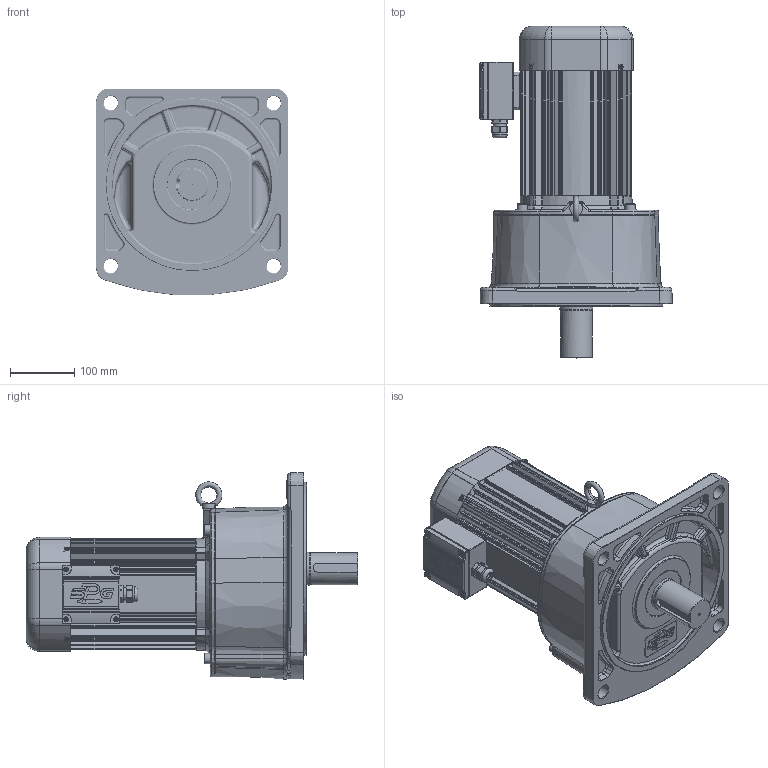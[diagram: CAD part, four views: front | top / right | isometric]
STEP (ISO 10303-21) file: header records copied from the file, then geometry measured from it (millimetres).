
FILE_DESCRIPTION(/* description */ (''),/* implementation_level */ '2;1');
FILE_NAME(/* name */ 'Z:\동력 3D 파일\PAF50_1.5kW_3D.stp',/* time_stamp */ '2021-11-08T16:09:01+09:00',/* author */ ('jaebok'),/* organization */ (''),/* preprocessor_version */ 'ST-DEVELOPER v18.1',/* originating_system */ 'Autodesk Inventor 2022',/* authorisation */ '');
FILE_SCHEMA (('AUTOMOTIVE_DESIGN { 1 0 10303 214 3 1 1 }'));
Products named in the file (1): 부품23
Bounding box: 300.46 x 518.5 x 322.9 mm (x, y, z)
Volume: 5917581.2 mm3; surface area: 1304453.9 mm2
Topology: 1 solids, 32 shells, 4171 faces, 10358 edges, 6128 vertices
Faces by surface type: bspline 1217, plane 1134, cylinder 1000, torus 407, cone 293, sphere 120
Full cylindrical faces by diameter (mm): 2.5 x2, 3.25 x1, 3.6 x4, 4 x22, 4.917 x4, 5 x17, 6 x1, 6.647 x1, 7 x12, 8 x4, 8.376 x4, 8.8 x1, 10 x5, 11 x4, 12.5 x1, 15 x1, 16 x4, 20 x2, 21 x1, 22 x5, 23.6 x1, 25 x2, 26 x1, 35.8 x1, 36 x2, 38 x1, 40 x1, 49.8 x2, 50 x2, 52 x5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
Entity records: 163576 total; most frequent: CARTESIAN_POINT 67736, ORIENTED_EDGE 20258, DIRECTION 17645, EDGE_CURVE 10129, AXIS2_PLACEMENT_3D 7260, VERTEX_POINT 6127, EDGE_LOOP 4402, FACE_OUTER_BOUND 4171
